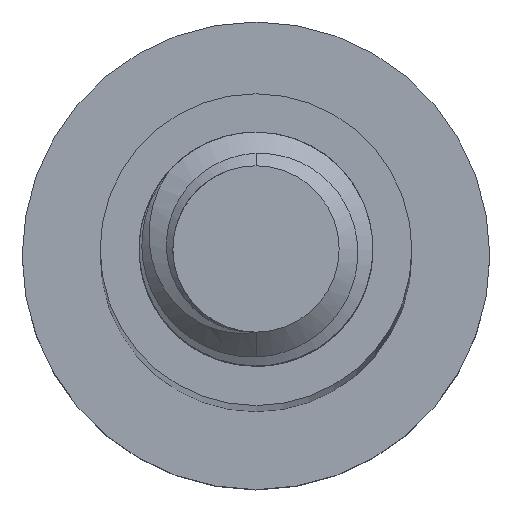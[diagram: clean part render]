
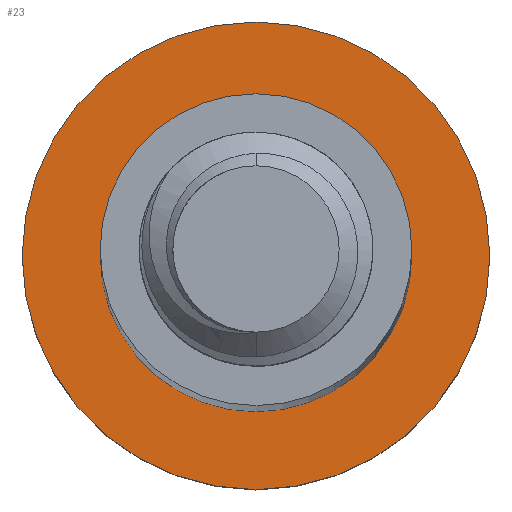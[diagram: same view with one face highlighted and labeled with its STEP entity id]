
A CAD part, top view. The second image highlights one B-rep face of the part: STEP entity #23.
In plain terms, the highlighted planar face has unit normal (0, 0, 1).
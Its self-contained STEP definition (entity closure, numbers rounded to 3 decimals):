
#2 = DIRECTION ( 'NONE',  ( 0., 0., -1. ) ) ;
#23 = ADVANCED_FACE ( 'NONE', ( #3219, #3923 ), #1606, .F. ) ;
#114 = DIRECTION ( 'NONE',  ( 0., 0., -1. ) ) ;
#118 = CIRCLE ( 'NONE', #4099, 6. ) ;
#174 = DIRECTION ( 'NONE',  ( 0., 0., -1. ) ) ;
#200 = CARTESIAN_POINT ( 'NONE',  ( 0., 0., -90. ) ) ;
#248 = VERTEX_POINT ( 'NONE', #2470 ) ;
#279 = CARTESIAN_POINT ( 'NONE',  ( 0., 0., -90. ) ) ;
#326 = CARTESIAN_POINT ( 'NONE',  ( 0., 0., -90. ) ) ;
#472 = EDGE_LOOP ( 'NONE', ( #4200, #937 ) ) ;
#578 = DIRECTION ( 'NONE',  ( -1., 0., 0. ) ) ;
#638 = DIRECTION ( 'NONE',  ( 0., 0., -1. ) ) ;
#669 = VERTEX_POINT ( 'NONE', #2188 ) ;
#789 = CARTESIAN_POINT ( 'NONE',  ( 6., 0., -90. ) ) ;
#832 = DIRECTION ( 'NONE',  ( -1., 0., 0. ) ) ;
#937 = ORIENTED_EDGE ( 'NONE', *, *, #2633, .F. ) ;
#952 = ORIENTED_EDGE ( 'NONE', *, *, #2499, .T. ) ;
#1089 = CARTESIAN_POINT ( 'NONE',  ( -6., 0., -90. ) ) ;
#1214 = CARTESIAN_POINT ( 'NONE',  ( 0., 0., -90. ) ) ;
#1561 = DIRECTION ( 'NONE',  ( -1., 0., 0. ) ) ;
#1598 = ORIENTED_EDGE ( 'NONE', *, *, #2689, .T. ) ;
#1606 = PLANE ( 'NONE',  #2289 ) ;
#1669 = EDGE_LOOP ( 'NONE', ( #952, #1598 ) ) ;
#1810 = AXIS2_PLACEMENT_3D ( 'NONE', #1214, #2880, #832 ) ;
#1953 = AXIS2_PLACEMENT_3D ( 'NONE', #3380, #114, #2730 ) ;
#2087 = VERTEX_POINT ( 'NONE', #1089 ) ;
#2188 = CARTESIAN_POINT ( 'NONE',  ( 4., 0., -90. ) ) ;
#2225 = AXIS2_PLACEMENT_3D ( 'NONE', #200, #174, #3815 ) ;
#2289 = AXIS2_PLACEMENT_3D ( 'NONE', #279, #638, #1561 ) ;
#2424 = VERTEX_POINT ( 'NONE', #789 ) ;
#2470 = CARTESIAN_POINT ( 'NONE',  ( -4., 0., -90. ) ) ;
#2499 = EDGE_CURVE ( 'NONE', #248, #669, #4095, .T. ) ;
#2633 = EDGE_CURVE ( 'NONE', #2087, #2424, #2926, .T. ) ;
#2689 = EDGE_CURVE ( 'NONE', #669, #248, #2853, .T. ) ;
#2730 = DIRECTION ( 'NONE',  ( -1., 0., 0. ) ) ;
#2853 = CIRCLE ( 'NONE', #1810, 4. ) ;
#2880 = DIRECTION ( 'NONE',  ( 0., 0., -1. ) ) ;
#2926 = CIRCLE ( 'NONE', #2225, 6. ) ;
#3219 = FACE_BOUND ( 'NONE', #1669, .T. ) ;
#3380 = CARTESIAN_POINT ( 'NONE',  ( 0., 0., -90. ) ) ;
#3620 = EDGE_CURVE ( 'NONE', #2424, #2087, #118, .T. ) ;
#3815 = DIRECTION ( 'NONE',  ( -1., 0., 0. ) ) ;
#3923 = FACE_OUTER_BOUND ( 'NONE', #472, .T. ) ;
#4095 = CIRCLE ( 'NONE', #1953, 4. ) ;
#4099 = AXIS2_PLACEMENT_3D ( 'NONE', #326, #2, #578 ) ;
#4200 = ORIENTED_EDGE ( 'NONE', *, *, #3620, .F. ) ;
